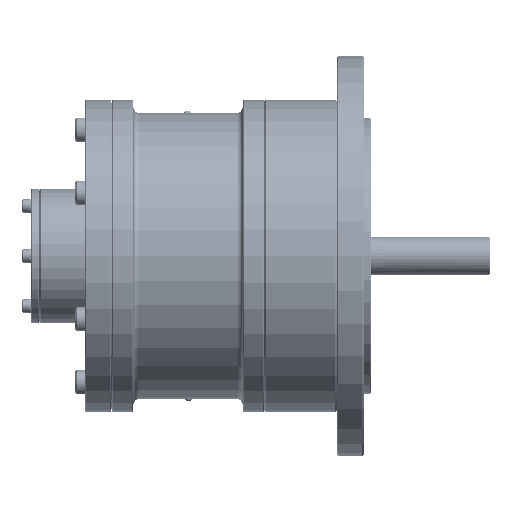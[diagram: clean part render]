
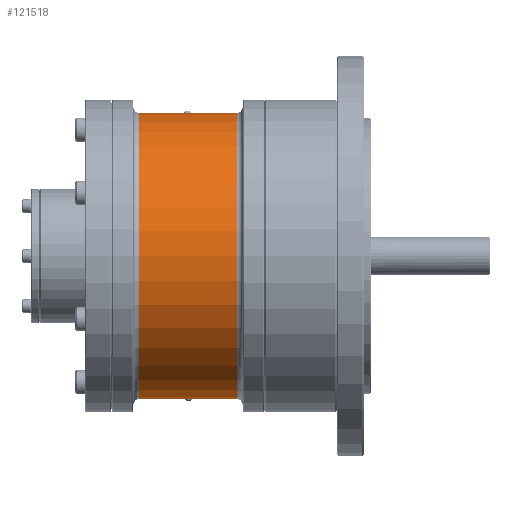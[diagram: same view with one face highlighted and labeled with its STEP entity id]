
A CAD part, front view. The second image highlights one B-rep face of the part: STEP entity #121518.
In plain terms, the highlighted cylindrical face has radius 59.5 mm (diameter 119 mm), a partial arc.
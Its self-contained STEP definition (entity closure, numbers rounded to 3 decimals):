
#456 = CARTESIAN_POINT ( 'NONE',  ( -15., 0., -59.5 ) ) ;
#5378 = ORIENTED_EDGE ( 'NONE', *, *, #231853, .F. ) ;
#9284 = DIRECTION ( 'NONE',  ( 0., 0., -1. ) ) ;
#13564 = LINE ( 'NONE', #87837, #27495 ) ;
#13710 = VECTOR ( 'NONE', #230964, 1000. ) ;
#20432 = LINE ( 'NONE', #37803, #205662 ) ;
#22280 = LINE ( 'NONE', #456, #13710 ) ;
#23712 = CARTESIAN_POINT ( 'NONE',  ( 20.25, 0., -59.5 ) ) ;
#27495 = VECTOR ( 'NONE', #177875, 1000. ) ;
#28521 = CARTESIAN_POINT ( 'NONE',  ( -17.5, 0., -59.5 ) ) ;
#30877 = DIRECTION ( 'NONE',  ( 0., 0., -1. ) ) ;
#37803 = CARTESIAN_POINT ( 'NONE',  ( -22.75, 0., -59.5 ) ) ;
#38159 = ORIENTED_EDGE ( 'NONE', *, *, #61165, .T. ) ;
#40817 = CIRCLE ( 'NONE', #230006, 59.5 ) ;
#42555 = VECTOR ( 'NONE', #187413, 1000. ) ;
#44568 = AXIS2_PLACEMENT_3D ( 'NONE', #219461, #216382, #111304 ) ;
#46730 = ORIENTED_EDGE ( 'NONE', *, *, #52528, .T. ) ;
#51514 = VERTEX_POINT ( 'NONE', #222453 ) ;
#52528 = EDGE_CURVE ( 'NONE', #154760, #191631, #13564, .T. ) ;
#60653 = EDGE_LOOP ( 'NONE', ( #5378, #148770, #38159, #100979, #46730, #214875, #128564, #100474 ) ) ;
#60661 = VERTEX_POINT ( 'NONE', #159938 ) ;
#61165 = EDGE_CURVE ( 'NONE', #51514, #98071, #20432, .T. ) ;
#64184 = LINE ( 'NONE', #117982, #78326 ) ;
#78191 = VERTEX_POINT ( 'NONE', #220305 ) ;
#78326 = VECTOR ( 'NONE', #192370, 1000. ) ;
#85190 = CARTESIAN_POINT ( 'NONE',  ( -20.25, 0., 59.5 ) ) ;
#87624 = VECTOR ( 'NONE', #162550, 1000. ) ;
#87837 = CARTESIAN_POINT ( 'NONE',  ( -22.75, 0., -59.5 ) ) ;
#92729 = CIRCLE ( 'NONE', #44568, 59.5 ) ;
#98071 = VERTEX_POINT ( 'NONE', #28521 ) ;
#100364 = EDGE_CURVE ( 'NONE', #191631, #158907, #40817, .T. ) ;
#100474 = ORIENTED_EDGE ( 'NONE', *, *, #107223, .F. ) ;
#100979 = ORIENTED_EDGE ( 'NONE', *, *, #186282, .T. ) ;
#103875 = CARTESIAN_POINT ( 'NONE',  ( 20.25, 0., 0. ) ) ;
#104318 = VERTEX_POINT ( 'NONE', #85190 ) ;
#104607 = DIRECTION ( 'NONE',  ( -1., 0., 0. ) ) ;
#107223 = EDGE_CURVE ( 'NONE', #78191, #60661, #185532, .T. ) ;
#111304 = DIRECTION ( 'NONE',  ( 0., 0., -1. ) ) ;
#117982 = CARTESIAN_POINT ( 'NONE',  ( -22.75, 0., 59.5 ) ) ;
#121518 = ADVANCED_FACE ( 'NONE', ( #222942 ), #121963, .T. ) ;
#121963 = CYLINDRICAL_SURFACE ( 'NONE', #212860, 59.5 ) ;
#126569 = CARTESIAN_POINT ( 'NONE',  ( -22.75, 0., 59.5 ) ) ;
#128564 = ORIENTED_EDGE ( 'NONE', *, *, #171430, .F. ) ;
#132600 = CARTESIAN_POINT ( 'NONE',  ( -15., 0., 59.5 ) ) ;
#148770 = ORIENTED_EDGE ( 'NONE', *, *, #185826, .T. ) ;
#154760 = VERTEX_POINT ( 'NONE', #227335 ) ;
#158907 = VERTEX_POINT ( 'NONE', #170548 ) ;
#159938 = CARTESIAN_POINT ( 'NONE',  ( 17.5, 0., 59.5 ) ) ;
#162550 = DIRECTION ( 'NONE',  ( 1., 0., 0. ) ) ;
#163234 = DIRECTION ( 'NONE',  ( 1., 0., 0. ) ) ;
#170548 = CARTESIAN_POINT ( 'NONE',  ( 20.25, 0., 59.5 ) ) ;
#171430 = EDGE_CURVE ( 'NONE', #60661, #158907, #64184, .T. ) ;
#177875 = DIRECTION ( 'NONE',  ( 1., 0., 0. ) ) ;
#182927 = LINE ( 'NONE', #126569, #87624 ) ;
#185532 = LINE ( 'NONE', #132600, #42555 ) ;
#185826 = EDGE_CURVE ( 'NONE', #104318, #51514, #92729, .T. ) ;
#186282 = EDGE_CURVE ( 'NONE', #98071, #154760, #22280, .T. ) ;
#187413 = DIRECTION ( 'NONE',  ( 1., 0., 0. ) ) ;
#188077 = DIRECTION ( 'NONE',  ( 1., 0., 0. ) ) ;
#191631 = VERTEX_POINT ( 'NONE', #23712 ) ;
#192370 = DIRECTION ( 'NONE',  ( 1., 0., 0. ) ) ;
#205662 = VECTOR ( 'NONE', #163234, 1000. ) ;
#207719 = CARTESIAN_POINT ( 'NONE',  ( -22.75, 0., 0. ) ) ;
#212860 = AXIS2_PLACEMENT_3D ( 'NONE', #207719, #188077, #9284 ) ;
#214875 = ORIENTED_EDGE ( 'NONE', *, *, #100364, .T. ) ;
#216382 = DIRECTION ( 'NONE',  ( 1., 0., 0. ) ) ;
#219461 = CARTESIAN_POINT ( 'NONE',  ( -20.25, 0., 0. ) ) ;
#220305 = CARTESIAN_POINT ( 'NONE',  ( -17.5, 0., 59.5 ) ) ;
#222453 = CARTESIAN_POINT ( 'NONE',  ( -20.25, 0., -59.5 ) ) ;
#222942 = FACE_OUTER_BOUND ( 'NONE', #60653, .T. ) ;
#227335 = CARTESIAN_POINT ( 'NONE',  ( 17.5, 0., -59.5 ) ) ;
#230006 = AXIS2_PLACEMENT_3D ( 'NONE', #103875, #104607, #30877 ) ;
#230964 = DIRECTION ( 'NONE',  ( 1., 0., 0. ) ) ;
#231853 = EDGE_CURVE ( 'NONE', #104318, #78191, #182927, .T. ) ;
